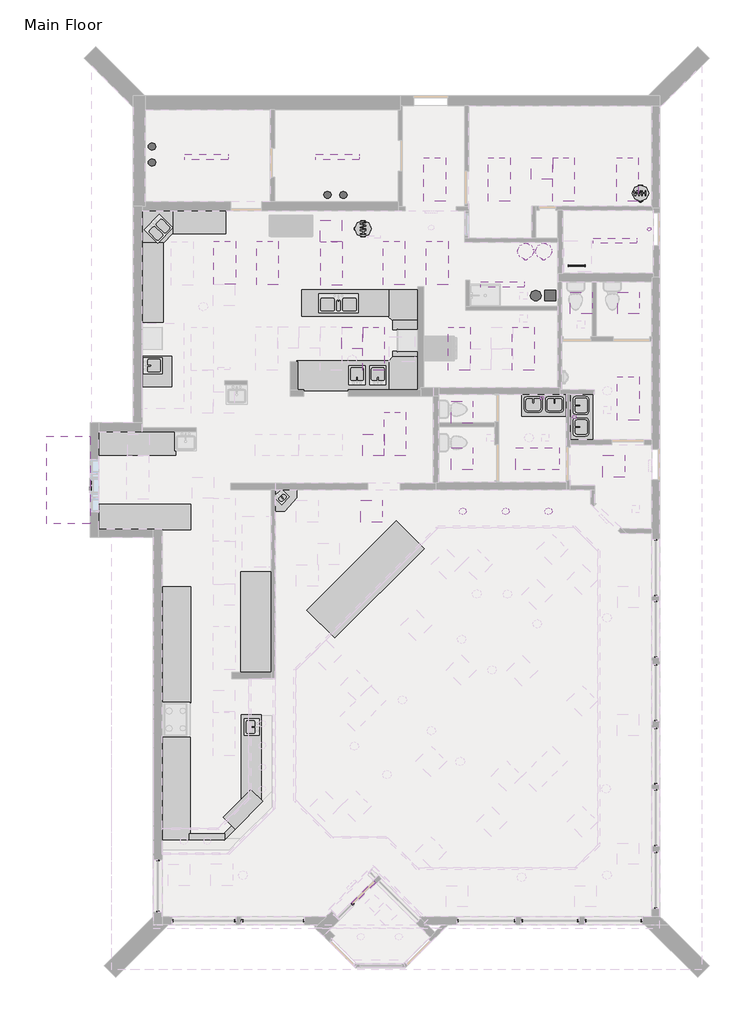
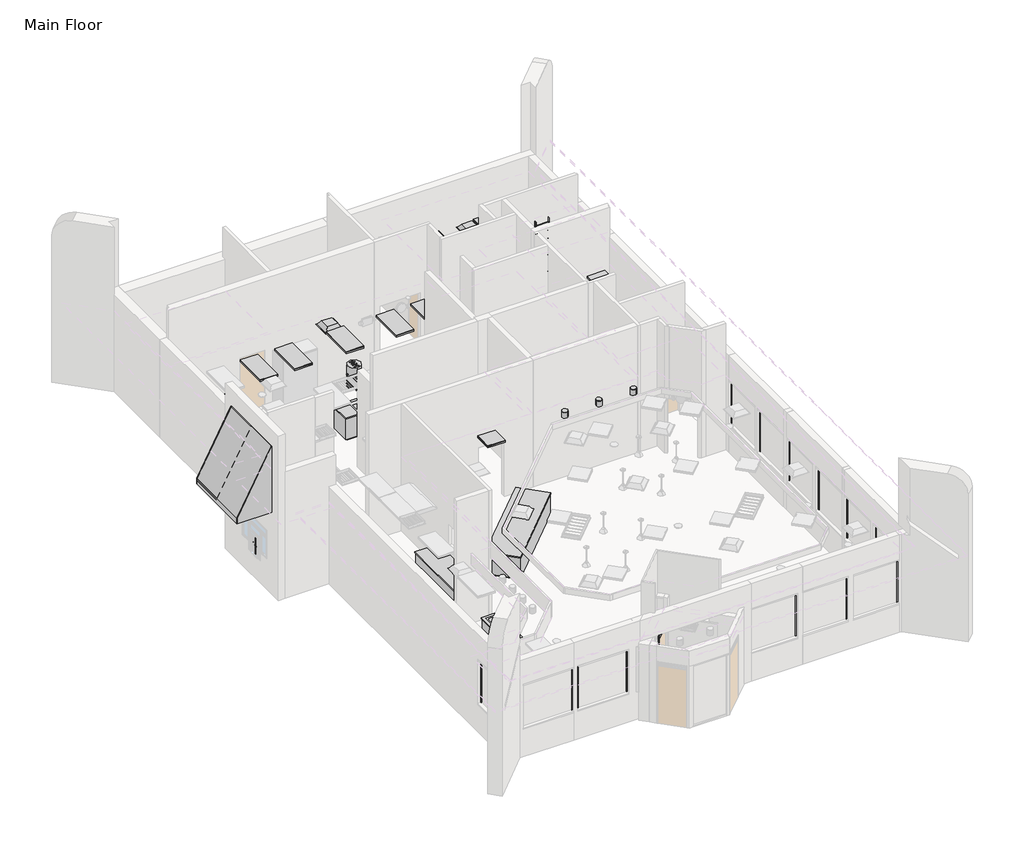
# One storey, part 6 of 6: 64 proxies, 31 light fixtures.
"""IFC4 building model written with IfcOpenShell, lengths in millimetres."""

from ifc_helpers import new_model, si_unit, frame, origin, place, context, project, spatial, polyline, outline, extrude, transform, mapped, element, save
from components import awning_8_0_x_2_a0d9e4c4, ceiling_diffuser_default_1_edc1f895, countertop_corner_shape_base_default_1_e423a1db, countertop_corner_shape_base_default_1_b8208f22, countertop_corner_shape_base_default_1_22158ea7, countertop_corner_shape_base_default_1_70b113c3, countertop_rectangle_shape_base_default_1_2ff23ce8, countertop_rectangle_shape_base_default_1_22753dd3, countertop_rectangle_shape_base_default_1_9c429990, countertop_rectangle_shape_base_default_1_edbfd68f, countertop_rectangle_shape_base_default_1_e5a6cc63, countertop_rectangle_shape_base_default_1_022ac87b, countertop_rectangle_shape_base_default_1_ae05822e, countertop_rectangle_shape_base_default_1_de570754, countertop_rectangle_shape_base_default_1_19555c43, countertop_rectangle_shape_base_default_1_59e20eb9, countertop_rectangle_shape_base_default_1_3d43212e, countertop_rectangle_shape_base_default_1_0af7198e, countertop_rectangle_shape_base_default_1_0b17d920, countertop_rectangle_shape_base_default_1_33887ab2, countertop_rectangle_shape_base_default_1_5083fd9c, countertop_rectangle_shape_base_default_1_3cfd87b4, countertop_rectangle_shape_base_default_1_46905aff, countertop_rectangle_shape_base_default_1_93e57330, countertop_rectangle_shape_base_default_1_961ba583, default_1_1a27af5c, heat_recovery_ventilator_default_1_1910ae9e, heat_recovery_ventilator_default_1_52baffe3, hot_water_heater_default_1_dcdfe45b, ladder_default_1_465773f7, muntin_pattern_2x2_muntin_pattern_2x2_a2b2235a, ceiling_mounted_fluorescent_light_default_1_2233ce3a, recessed_fluorescent_light_default_1_c438942c, recessed_fluorescent_light_default_1_8456e3b0, light_fixture_643521e1, light_fixture_e469d1bf

model = new_model("IFC4")

# Units and contexts
model_context = context("Model", 3, world=origin())
ifc_project = project(units=[si_unit("LENGTHUNIT", "METRE", prefix="MILLI")], contexts=[model_context])

# Site, building, storey
site = spatial("IfcSite", under=ifc_project)
building = spatial("IfcBuilding", under=site)
storey = spatial("IfcBuildingStorey", under=building, Name="Main Floor", Elevation=0.0)

# Proxies
placement = place(None, origin())
element("IfcBuildingElementProxy", 1, Name="Planitar-Mullion", ObjectType="Planitar-Mullion", at=placement, inside=storey, context=model_context, shape_type="SweptSolid", body=[
    extrude(outline(polyline([(58.1913166, -10826.6129637), (103.0925972, -10871.5142443), (58.1913166, -10916.4155249), (13.290036, -10871.5142443), (58.1913166, -10826.6129637)])), frame((0.0, 0.0, 69.85), z_axis=(0.0, 0.0, 1.0), x_axis=(1.0, 0.0, 0.0)), (0.0, 0.0, 1.0), 2419.35),
])
element("IfcBuildingElementProxy", 2, Name="Planitar-Mullion", ObjectType="Planitar-Mullion", at=placement, inside=storey, context=model_context, shape_type="SweptSolid", body=[
    extrude(outline(polyline([(80.6419569, -10893.9648846), (35.7406763, -10849.063604), (655.3783487, -10229.4259317), (700.2796293, -10274.3272123), (80.6419569, -10893.9648846)])), frame((0.0, 0.0, 2203.45), z_axis=(0.0, 0.0, 1.0), x_axis=(1.0, 0.0, 0.0)), (0.0, 0.0, 1.0), 63.5),
])
element("IfcBuildingElementProxy", 3, Name="Planitar-Mullion", ObjectType="Planitar-Mullion", at=placement, inside=storey, context=model_context, shape_type="SweptSolid", body=[
    extrude(outline(polyline([(-5433.3666136, -9604.5500796), (-5369.8666136, -9604.5500796), (-5369.8666136, -9668.0500796), (-5433.3666136, -9668.0500796), (-5433.3666136, -9604.5500796)])), frame((0.0, 0.0, 1066.8), z_axis=(0.0, 0.0, 1.0), x_axis=(1.0, 0.0, 0.0)), (0.0, 0.0, 1.0), 1574.8),
])
element("IfcBuildingElementProxy", 4, Name="Planitar-Mullion", ObjectType="Planitar-Mullion", at=placement, inside=storey, context=model_context, shape_type="SweptSolid", body=[
    extrude(outline(polyline([(-5433.3666136, -11077.7500796), (-5369.8666136, -11077.7500796), (-5369.8666136, -11141.2500796), (-5433.3666136, -11141.2500796), (-5433.3666136, -11077.7500796)])), frame((0.0, 0.0, 1066.8), z_axis=(0.0, 0.0, 1.0), x_axis=(1.0, 0.0, 0.0)), (0.0, 0.0, 1.0), 1574.8),
])
element("IfcBuildingElementProxy", 5, Name="Planitar-Mullion", ObjectType="Planitar-Mullion", at=placement, inside=storey, context=model_context, shape_type="SweptSolid", body=[
    extrude(outline(polyline([(-5033.3166136, -11375.6812018), (-5033.3166136, -11312.1812018), (-4969.8166136, -11312.1812018), (-4969.8166136, -11375.6812018), (-5033.3166136, -11375.6812018)])), frame((0.0, 0.0, 1066.8), z_axis=(0.0, 0.0, 1.0), x_axis=(1.0, 0.0, 0.0)), (0.0, 0.0, 1.0), 1574.8),
])
element("IfcBuildingElementProxy", 6, Name="Planitar-Mullion", ObjectType="Planitar-Mullion", at=placement, inside=storey, context=model_context, shape_type="SweptSolid", body=[
    extrude(outline(polyline([(-3255.3166136, -11375.6812018), (-3255.3166136, -11312.1812018), (-3191.8166136, -11312.1812018), (-3191.8166136, -11375.6812018), (-3255.3166136, -11375.6812018)])), frame((0.0, 0.0, 1066.8), z_axis=(0.0, 0.0, 1.0), x_axis=(1.0, 0.0, 0.0)), (0.0, 0.0, 1.0), 1574.8),
])
element("IfcBuildingElementProxy", 7, Name="Planitar-Mullion", ObjectType="Planitar-Mullion", at=placement, inside=storey, context=model_context, shape_type="SweptSolid", body=[
    extrude(outline(polyline([(-3077.5166136, -11375.6812018), (-3077.5166136, -11312.1812018), (-3014.0166136, -11312.1812018), (-3014.0166136, -11375.6812018), (-3077.5166136, -11375.6812018)])), frame((0.0, 0.0, 1066.8), z_axis=(0.0, 0.0, 1.0), x_axis=(1.0, 0.0, 0.0)), (0.0, 0.0, 1.0), 1574.8),
])
element("IfcBuildingElementProxy", 8, Name="Planitar-Mullion", ObjectType="Planitar-Mullion", at=placement, inside=storey, context=model_context, shape_type="SweptSolid", body=[
    extrude(outline(polyline([(-1329.4088727, -11375.6812018), (-1329.4088727, -11312.1812018), (-1265.9088727, -11312.1812018), (-1265.9088727, -11375.6812018), (-1329.4088727, -11375.6812018)])), frame((0.0, 0.0, 1066.8), z_axis=(0.0, 0.0, 1.0), x_axis=(1.0, 0.0, 0.0)), (0.0, 0.0, 1.0), 1574.8),
])
element("IfcBuildingElementProxy", 9, Name="Planitar-Mullion", ObjectType="Planitar-Mullion", at=placement, inside=storey, context=model_context, shape_type="SweptSolid", body=[
    extrude(outline(polyline([(2959.2063385, -11375.6812018), (2959.2063385, -11312.1812018), (3022.7063385, -11312.1812018), (3022.7063385, -11375.6812018), (2959.2063385, -11375.6812018)])), frame((0.0, 0.0, 1066.8), z_axis=(0.0, 0.0, 1.0), x_axis=(1.0, 0.0, 0.0)), (0.0, 0.0, 1.0), 1574.8),
])
element("IfcBuildingElementProxy", 10, Name="Planitar-Mullion", ObjectType="Planitar-Mullion", at=placement, inside=storey, context=model_context, shape_type="SweptSolid", body=[
    extrude(outline(polyline([(4584.8063385, -11375.6812018), (4584.8063385, -11312.1812018), (4648.3063385, -11312.1812018), (4648.3063385, -11375.6812018), (4584.8063385, -11375.6812018)])), frame((0.0, 0.0, 1066.8), z_axis=(0.0, 0.0, 1.0), x_axis=(1.0, 0.0, 0.0)), (0.0, 0.0, 1.0), 1574.8),
])
element("IfcBuildingElementProxy", 11, Name="Planitar-Mullion", ObjectType="Planitar-Mullion", at=placement, inside=storey, context=model_context, shape_type="SweptSolid", body=[
    extrude(outline(polyline([(4762.6063385, -11375.6812018), (4762.6063385, -11312.1812018), (4826.1063385, -11312.1812018), (4826.1063385, -11375.6812018), (4762.6063385, -11375.6812018)])), frame((0.0, 0.0, 1066.8), z_axis=(0.0, 0.0, 1.0), x_axis=(1.0, 0.0, 0.0)), (0.0, 0.0, 1.0), 1574.8),
])
element("IfcBuildingElementProxy", 12, Name="Planitar-Mullion", ObjectType="Planitar-Mullion", at=placement, inside=storey, context=model_context, shape_type="SweptSolid", body=[
    extrude(outline(polyline([(6362.8063385, -11375.6812018), (6362.8063385, -11312.1812018), (6426.3063385, -11312.1812018), (6426.3063385, -11375.6812018), (6362.8063385, -11375.6812018)])), frame((0.0, 0.0, 1066.8), z_axis=(0.0, 0.0, 1.0), x_axis=(1.0, 0.0, 0.0)), (0.0, 0.0, 1.0), 1574.8),
])
element("IfcBuildingElementProxy", 13, Name="Planitar-Mullion", ObjectType="Planitar-Mullion", at=placement, inside=storey, context=model_context, shape_type="SweptSolid", body=[
    extrude(outline(polyline([(6540.6063385, -11375.6812018), (6540.6063385, -11312.1812018), (6604.1063385, -11312.1812018), (6604.1063385, -11375.6812018), (6540.6063385, -11375.6812018)])), frame((0.0, 0.0, 1066.8), z_axis=(0.0, 0.0, 1.0), x_axis=(1.0, 0.0, 0.0)), (0.0, 0.0, 1.0), 1574.8),
])
element("IfcBuildingElementProxy", 14, Name="Planitar-Mullion", ObjectType="Planitar-Mullion", at=placement, inside=storey, context=model_context, shape_type="SweptSolid", body=[
    extrude(outline(polyline([(8142.9333864, -11375.6812018), (8142.9333864, -11312.1812018), (8206.4333864, -11312.1812018), (8206.4333864, -11375.6812018), (8142.9333864, -11375.6812018)])), frame((0.0, 0.0, 1066.8), z_axis=(0.0, 0.0, 1.0), x_axis=(1.0, 0.0, 0.0)), (0.0, 0.0, 1.0), 1574.8),
])
element("IfcBuildingElementProxy", 15, Name="Planitar-Mullion", ObjectType="Planitar-Mullion", at=placement, inside=storey, context=model_context, shape_type="SweptSolid", body=[
    extrude(outline(polyline([(8593.7833864, -2276.6500796), (8530.2833864, -2276.6500796), (8530.2833864, -2213.1500796), (8593.7833864, -2213.1500796), (8593.7833864, -2276.6500796)])), frame((0.0, 0.0, 1066.8), z_axis=(0.0, 0.0, 1.0), x_axis=(1.0, 0.0, 0.0)), (0.0, 0.0, 1.0), 1574.8),
])
element("IfcBuildingElementProxy", 16, Name="Planitar-Mullion", ObjectType="Planitar-Mullion", at=placement, inside=storey, context=model_context, shape_type="SweptSolid", body=[
    extrude(outline(polyline([(8593.7833864, -676.4500796), (8530.2833864, -676.4500796), (8530.2833864, -612.9500796), (8593.7833864, -612.9500796), (8593.7833864, -676.4500796)])), frame((0.0, 0.0, 1066.8), z_axis=(0.0, 0.0, 1.0), x_axis=(1.0, 0.0, 0.0)), (0.0, 0.0, 1.0), 1574.8),
])
element("IfcBuildingElementProxy", 17, Name="Planitar-Mullion", ObjectType="Planitar-Mullion", at=placement, inside=storey, context=model_context, shape_type="SweptSolid", body=[
    extrude(outline(polyline([(8593.7833864, -2403.6500796), (8530.2833864, -2403.6500796), (8530.2833864, -2340.1500796), (8593.7833864, -2340.1500796), (8593.7833864, -2403.6500796)])), frame((0.0, 0.0, 1066.8), z_axis=(0.0, 0.0, 1.0), x_axis=(1.0, 0.0, 0.0)), (0.0, 0.0, 1.0), 1574.8),
])
element("IfcBuildingElementProxy", 18, Name="Planitar-Mullion", ObjectType="Planitar-Mullion", at=placement, inside=storey, context=model_context, shape_type="SweptSolid", body=[
    extrude(outline(polyline([(8593.7833864, -4003.8500796), (8530.2833864, -4003.8500796), (8530.2833864, -3940.3500796), (8593.7833864, -3940.3500796), (8593.7833864, -4003.8500796)])), frame((0.0, 0.0, 1066.8), z_axis=(0.0, 0.0, 1.0), x_axis=(1.0, 0.0, 0.0)), (0.0, 0.0, 1.0), 1574.8),
])
element("IfcBuildingElementProxy", 19, Name="Planitar-Mullion", ObjectType="Planitar-Mullion", at=placement, inside=storey, context=model_context, shape_type="SweptSolid", body=[
    extrude(outline(polyline([(8593.7833864, -4181.6500796), (8530.2833864, -4181.6500796), (8530.2833864, -4118.1500796), (8593.7833864, -4118.1500796), (8593.7833864, -4181.6500796)])), frame((0.0, 0.0, 1066.8), z_axis=(0.0, 0.0, 1.0), x_axis=(1.0, 0.0, 0.0)), (0.0, 0.0, 1.0), 1574.8),
])
element("IfcBuildingElementProxy", 20, Name="Planitar-Mullion", ObjectType="Planitar-Mullion", at=placement, inside=storey, context=model_context, shape_type="SweptSolid", body=[
    extrude(outline(polyline([(8593.7833864, -5781.8500796), (8530.2833864, -5781.8500796), (8530.2833864, -5718.3500796), (8593.7833864, -5718.3500796), (8593.7833864, -5781.8500796)])), frame((0.0, 0.0, 1066.8), z_axis=(0.0, 0.0, 1.0), x_axis=(1.0, 0.0, 0.0)), (0.0, 0.0, 1.0), 1574.8),
])
element("IfcBuildingElementProxy", 21, Name="Planitar-Mullion", ObjectType="Planitar-Mullion", at=placement, inside=storey, context=model_context, shape_type="SweptSolid", body=[
    extrude(outline(polyline([(8593.7833864, -5959.6500796), (8530.2833864, -5959.6500796), (8530.2833864, -5896.1500796), (8593.7833864, -5896.1500796), (8593.7833864, -5959.6500796)])), frame((0.0, 0.0, 1066.8), z_axis=(0.0, 0.0, 1.0), x_axis=(1.0, 0.0, 0.0)), (0.0, 0.0, 1.0), 1574.8),
])
element("IfcBuildingElementProxy", 22, Name="Planitar-Mullion", ObjectType="Planitar-Mullion", at=placement, inside=storey, context=model_context, shape_type="SweptSolid", body=[
    extrude(outline(polyline([(8593.7833864, -7559.8500796), (8530.2833864, -7559.8500796), (8530.2833864, -7496.3500796), (8593.7833864, -7496.3500796), (8593.7833864, -7559.8500796)])), frame((0.0, 0.0, 1066.8), z_axis=(0.0, 0.0, 1.0), x_axis=(1.0, 0.0, 0.0)), (0.0, 0.0, 1.0), 1574.8),
])
element("IfcBuildingElementProxy", 23, Name="Planitar-Mullion", ObjectType="Planitar-Mullion", at=placement, inside=storey, context=model_context, shape_type="SweptSolid", body=[
    extrude(outline(polyline([(8593.7833864, -7686.8500796), (8530.2833864, -7686.8500796), (8530.2833864, -7623.3500796), (8593.7833864, -7623.3500796), (8593.7833864, -7686.8500796)])), frame((0.0, 0.0, 1066.8), z_axis=(0.0, 0.0, 1.0), x_axis=(1.0, 0.0, 0.0)), (0.0, 0.0, 1.0), 1574.8),
])
element("IfcBuildingElementProxy", 24, Name="Planitar-Mullion", ObjectType="Planitar-Mullion", at=placement, inside=storey, context=model_context, shape_type="SweptSolid", body=[
    extrude(outline(polyline([(8593.7833864, -9287.0500796), (8530.2833864, -9287.0500796), (8530.2833864, -9223.5500796), (8593.7833864, -9223.5500796), (8593.7833864, -9287.0500796)])), frame((0.0, 0.0, 1066.8), z_axis=(0.0, 0.0, 1.0), x_axis=(1.0, 0.0, 0.0)), (0.0, 0.0, 1.0), 1574.8),
])
element("IfcBuildingElementProxy", 25, Name="Planitar-Mullion", ObjectType="Planitar-Mullion", at=placement, inside=storey, context=model_context, shape_type="SweptSolid", body=[
    extrude(outline(polyline([(8593.7833864, -9439.4500796), (8530.2833864, -9439.4500796), (8530.2833864, -9375.9500796), (8593.7833864, -9375.9500796), (8593.7833864, -9439.4500796)])), frame((0.0, 0.0, 1066.8), z_axis=(0.0, 0.0, 1.0), x_axis=(1.0, 0.0, 0.0)), (0.0, 0.0, 1.0), 1574.8),
])
element("IfcBuildingElementProxy", 26, Name="Planitar-Mullion", ObjectType="Planitar-Mullion", at=placement, inside=storey, context=model_context, shape_type="SweptSolid", body=[
    extrude(outline(polyline([(8593.7833864, -11039.6500796), (8530.2833864, -11039.6500796), (8530.2833864, -10976.1500796), (8593.7833864, -10976.1500796), (8593.7833864, -11039.6500796)])), frame((0.0, 0.0, 1066.8), z_axis=(0.0, 0.0, 1.0), x_axis=(1.0, 0.0, 0.0)), (0.0, 0.0, 1.0), 1574.8),
])
awning_8_0_x_2_shape = awning_8_0_x_2_a0d9e4c4(model_context)
element("IfcBuildingElementProxy", 27, Name="Awning : 8'-0 x 2", ObjectType="Awning : 8'-0 x 2", at=placement, inside=storey, context=model_context, shape_type="MappedRepresentation", body=[
    mapped(awning_8_0_x_2_shape, transform((-7179.6166136, 1012.6499204, 1219.2), x_axis=(0.0, 1.0, 0.0), y_axis=(-1.0, 0.0, 0.0), z_axis=(0.0, 0.0, 1.0))),
])
ceiling_diffuser_default_1_shape = ceiling_diffuser_default_1_edc1f895(model_context)
element("IfcBuildingElementProxy", 28, Name="Ceiling Diffuser : Default 1", ObjectType="Ceiling Diffuser : Default 1", at=placement, inside=storey, context=model_context, shape_type="MappedRepresentation", body=[
    mapped(ceiling_diffuser_default_1_shape, transform((46.6833864, 4997.2749204, 2590.8), x_axis=(1.0, 0.0, 0.0), y_axis=(0.0, 1.0, 0.0), z_axis=(0.0, 0.0, 1.0))),
])
element("IfcBuildingElementProxy", 29, Name="Ceiling Diffuser : Default 1", ObjectType="Ceiling Diffuser : Default 1", at=placement, inside=storey, context=model_context, shape_type="MappedRepresentation", body=[
    mapped(ceiling_diffuser_default_1_shape, transform((642.0278247, 1993.7249204, 2590.8), x_axis=(1.0, 0.0, 0.0), y_axis=(0.0, 1.0, 0.0), z_axis=(0.0, 0.0, 1.0))),
])
element("IfcBuildingElementProxy", 30, Name="Ceiling Diffuser : Default 1", ObjectType="Ceiling Diffuser : Default 1", at=placement, inside=storey, context=model_context, shape_type="MappedRepresentation", body=[
    mapped(ceiling_diffuser_default_1_shape, transform((5368.4582966, 9745.9587148, 3048.0), x_axis=(1.0, 0.0, 0.0), y_axis=(0.0, 1.0, 0.0), z_axis=(0.0, 0.0, 1.0))),
])
element("IfcBuildingElementProxy", 31, Name="Ceiling Diffuser : Default 1", ObjectType="Ceiling Diffuser : Default 1", at=placement, inside=storey, context=model_context, shape_type="MappedRepresentation", body=[
    mapped(ceiling_diffuser_default_1_shape, transform((-549.619329, 7998.2462841, 2590.8), x_axis=(1.0, 0.0, 0.0), y_axis=(0.0, 1.0, 0.0), z_axis=(0.0, 0.0, 1.0))),
])
countertop_corner_shape_base_default_1_shape = countertop_corner_shape_base_default_1_e423a1db(model_context)
element("IfcBuildingElementProxy", 32, Name="Countertop- Corner, Shape base : Default 1", ObjectType="Countertop- Corner, Shape base : Default 1", at=placement, inside=storey, context=model_context, shape_type="MappedRepresentation", body=[
    mapped(countertop_corner_shape_base_default_1_shape, transform((1881.8333864, 2948.8999204, 0.0), x_axis=(0.0, 1.0, 0.0), y_axis=(-1.0, 0.0, 0.0), z_axis=(0.0, 0.0, 1.0))),
])
countertop_corner_shape_base_default_1_2_shape = countertop_corner_shape_base_default_1_b8208f22(model_context)
element("IfcBuildingElementProxy", 33, Name="Countertop- Corner, Shape base : Default 1", ObjectType="Countertop- Corner, Shape base : Default 1", at=placement, inside=storey, context=model_context, shape_type="MappedRepresentation", body=[
    mapped(countertop_corner_shape_base_default_1_2_shape, transform((2574.4833864, 6327.5999204, 0.0), x_axis=(-1.0, 0.0, 0.0), y_axis=(0.0, -1.0, 0.0), z_axis=(0.0, 0.0, 1.0))),
])
countertop_corner_shape_base_default_1_3_shape = countertop_corner_shape_base_default_1_22158ea7(model_context)
element("IfcBuildingElementProxy", 34, Name="Countertop- Corner, Shape base : Default 1", ObjectType="Countertop- Corner, Shape base : Default 1", at=placement, inside=storey, context=model_context, shape_type="MappedRepresentation", body=[
    mapped(countertop_corner_shape_base_default_1_3_shape, transform((-5846.1166136, 9179.2499204, 0.0), x_axis=(0.0, -1.0, 0.0), y_axis=(1.0, 0.0, 0.0), z_axis=(0.0, 0.0, 1.0))),
])
countertop_corner_shape_base_default_1_4_shape = countertop_corner_shape_base_default_1_70b113c3(model_context)
element("IfcBuildingElementProxy", 35, Name="Countertop- Corner, Shape base : Default 1", ObjectType="Countertop- Corner, Shape base : Default 1", at=placement, inside=storey, context=model_context, shape_type="MappedRepresentation", body=[
    mapped(countertop_corner_shape_base_default_1_4_shape, transform((-2112.3166136, 1667.1999204, 0.0), x_axis=(0.0, -1.0, 0.0), y_axis=(1.0, 0.0, 0.0), z_axis=(0.0, 0.0, 1.0))),
])
countertop_rectangle_shape_base_default_1_shape = countertop_rectangle_shape_base_default_1_2ff23ce8(model_context)
element("IfcBuildingElementProxy", 36, Name="Countertop- Rectangle shape base : Default 1", ObjectType="Countertop- Rectangle shape base : Default 1", at=placement, inside=storey, context=model_context, shape_type="MappedRepresentation", body=[
    mapped(countertop_rectangle_shape_base_default_1_shape, transform((-5271.4416136, -2844.9750796, 0.0), x_axis=(0.0, -1.0, 0.0), y_axis=(1.0, 0.0, 0.0), z_axis=(0.0, 0.0, 1.0))),
])
countertop_rectangle_shape_base_default_1_2_shape = countertop_rectangle_shape_base_default_1_22753dd3(model_context)
element("IfcBuildingElementProxy", 37, Name="Countertop- Rectangle shape base : Default 1", ObjectType="Countertop- Rectangle shape base : Default 1", at=placement, inside=storey, context=model_context, shape_type="MappedRepresentation", body=[
    mapped(countertop_rectangle_shape_base_default_1_2_shape, transform((-3023.5416136, -2216.3250796, 0.0), x_axis=(0.0, -1.0, 0.0), y_axis=(1.0, 0.0, 0.0), z_axis=(0.0, 0.0, 1.0))),
])
countertop_rectangle_shape_base_default_1_3_shape = countertop_rectangle_shape_base_default_1_9c429990(model_context)
element("IfcBuildingElementProxy", 38, Name="Countertop- Rectangle shape base : Default 1", ObjectType="Countertop- Rectangle shape base : Default 1", at=placement, inside=storey, context=model_context, shape_type="MappedRepresentation", body=[
    mapped(countertop_rectangle_shape_base_default_1_3_shape, transform((-6544.6166136, -403.4000796, 0.0), x_axis=(1.0, 0.0, 0.0), y_axis=(0.0, 1.0, 0.0), z_axis=(0.0, 0.0, 1.0))),
])
countertop_rectangle_shape_base_default_1_4_shape = countertop_rectangle_shape_base_default_1_edbfd68f(model_context)
element("IfcBuildingElementProxy", 39, Name="Countertop- Rectangle shape base : Default 1", ObjectType="Countertop- Rectangle shape base : Default 1", at=placement, inside=storey, context=model_context, shape_type="MappedRepresentation", body=[
    mapped(countertop_rectangle_shape_base_default_1_4_shape, transform((-6204.8916136, 3679.6499204, 0.0), x_axis=(1.0, 0.0, 0.0), y_axis=(0.0, 1.0, 0.0), z_axis=(0.0, 0.0, 1.0))),
])
countertop_rectangle_shape_base_default_1_5_shape = countertop_rectangle_shape_base_default_1_e5a6cc63(model_context)
element("IfcBuildingElementProxy", 40, Name="Countertop- Rectangle shape base : Default 1", ObjectType="Countertop- Rectangle shape base : Default 1", at=placement, inside=storey, context=model_context, shape_type="MappedRepresentation", body=[
    mapped(countertop_rectangle_shape_base_default_1_5_shape, transform((-5938.1916136, 7321.3749204, 0.0), x_axis=(0.0, -1.0, 0.0), y_axis=(1.0, 0.0, 0.0), z_axis=(0.0, 0.0, 1.0))),
])
countertop_rectangle_shape_base_default_1_6_shape = countertop_rectangle_shape_base_default_1_022ac87b(model_context)
element("IfcBuildingElementProxy", 41, Name="Countertop- Rectangle shape base : Default 1", ObjectType="Countertop- Rectangle shape base : Default 1", at=placement, inside=storey, context=model_context, shape_type="MappedRepresentation", body=[
    mapped(countertop_rectangle_shape_base_default_1_6_shape, transform((-3490.2666136, 8635.8249204, 0.0), x_axis=(-1.0, 0.0, 0.0), y_axis=(0.0, -1.0, 0.0), z_axis=(0.0, 0.0, 1.0))),
])
countertop_rectangle_shape_base_default_1_7_shape = countertop_rectangle_shape_base_default_1_ae05822e(model_context)
element("IfcBuildingElementProxy", 42, Name="Countertop- Rectangle shape base : Default 1", ObjectType="Countertop- Rectangle shape base : Default 1", at=placement, inside=storey, context=model_context, shape_type="MappedRepresentation", body=[
    mapped(countertop_rectangle_shape_base_default_1_7_shape, transform((611.8333864, 6356.1749204, 0.0), x_axis=(-1.0, 0.0, 0.0), y_axis=(0.0, -1.0, 0.0), z_axis=(0.0, 0.0, 1.0))),
])
countertop_rectangle_shape_base_default_1_8_shape = countertop_rectangle_shape_base_default_1_de570754(model_context)
element("IfcBuildingElementProxy", 43, Name="Countertop- Rectangle shape base : Default 1", ObjectType="Countertop- Rectangle shape base : Default 1", at=placement, inside=storey, context=model_context, shape_type="MappedRepresentation", body=[
    mapped(countertop_rectangle_shape_base_default_1_8_shape, transform((780.1083864, 4975.0499204, 0.0), x_axis=(1.0, 0.0, 0.0), y_axis=(0.0, 1.0, 0.0), z_axis=(0.0, 0.0, 1.0))),
])
countertop_rectangle_shape_base_default_1_9_shape = countertop_rectangle_shape_base_default_1_19555c43(model_context)
element("IfcBuildingElementProxy", 44, Name="Countertop- Rectangle shape base : Default 1", ObjectType="Countertop- Rectangle shape base : Default 1", at=placement, inside=storey, context=model_context, shape_type="MappedRepresentation", body=[
    mapped(countertop_rectangle_shape_base_default_1_9_shape, transform((780.1083864, 4162.2499204, 0.0), x_axis=(1.0, 0.0, 0.0), y_axis=(0.0, 1.0, 0.0), z_axis=(0.0, 0.0, 1.0))),
])
countertop_rectangle_shape_base_default_1_10_shape = countertop_rectangle_shape_base_default_1_59e20eb9(model_context)
element("IfcBuildingElementProxy", 45, Name="Countertop- Rectangle shape base : Default 1", ObjectType="Countertop- Rectangle shape base : Default 1", at=placement, inside=storey, context=model_context, shape_type="MappedRepresentation", body=[
    mapped(countertop_rectangle_shape_base_default_1_10_shape, transform((-978.8416136, 3555.8249204, 0.0), x_axis=(1.0, 0.0, 0.0), y_axis=(0.0, 1.0, 0.0), z_axis=(0.0, 0.0, 1.0))),
])
countertop_rectangle_shape_base_default_1_11_shape = countertop_rectangle_shape_base_default_1_3d43212e(model_context)
element("IfcBuildingElementProxy", 46, Name="Countertop- Rectangle shape base : Default 1", ObjectType="Countertop- Rectangle shape base : Default 1", at=placement, inside=storey, context=model_context, shape_type="MappedRepresentation", body=[
    mapped(countertop_rectangle_shape_base_default_1_11_shape, transform((4672.6583864, 2739.8499204, 0.0), x_axis=(1.0, 0.0, 0.0), y_axis=(0.0, 1.0, 0.0), z_axis=(0.0, 0.0, 1.0))),
])
countertop_rectangle_shape_base_default_1_12_shape = countertop_rectangle_shape_base_default_1_0af7198e(model_context)
element("IfcBuildingElementProxy", 47, Name="Countertop- Rectangle shape base : Default 1", ObjectType="Countertop- Rectangle shape base : Default 1", at=placement, inside=storey, context=model_context, shape_type="MappedRepresentation", body=[
    mapped(countertop_rectangle_shape_base_default_1_12_shape, transform((6853.8833864, 2019.1249204, 0.0), x_axis=(0.0, 1.0, 0.0), y_axis=(-1.0, 0.0, 0.0), z_axis=(0.0, 0.0, 1.0))),
])
countertop_rectangle_shape_base_default_1_13_shape = countertop_rectangle_shape_base_default_1_0b17d920(model_context)
element("IfcBuildingElementProxy", 48, Name="Countertop- Rectangle shape base : Default 1", ObjectType="Countertop- Rectangle shape base : Default 1", at=placement, inside=storey, context=model_context, shape_type="MappedRepresentation", body=[
    mapped(countertop_rectangle_shape_base_default_1_13_shape, transform((-6754.1666136, 1663.5249204, 0.0), x_axis=(1.0, 0.0, 0.0), y_axis=(0.0, 1.0, 0.0), z_axis=(0.0, 0.0, 1.0))),
])
countertop_rectangle_shape_base_default_1_14_shape = countertop_rectangle_shape_base_default_1_33887ab2(model_context)
element("IfcBuildingElementProxy", 49, Name="Countertop- Rectangle shape base : Default 1", ObjectType="Countertop- Rectangle shape base : Default 1", at=placement, inside=storey, context=model_context, shape_type="MappedRepresentation", body=[
    mapped(countertop_rectangle_shape_base_default_1_14_shape, transform((-5274.6166136, -6874.0500796, 0.0), x_axis=(0.0, -1.0, 0.0), y_axis=(1.0, 0.0, 0.0), z_axis=(0.0, 0.0, 1.0))),
])
countertop_rectangle_shape_base_default_1_15_shape = countertop_rectangle_shape_base_default_1_5083fd9c(model_context)
element("IfcBuildingElementProxy", 50, Name="Countertop- Rectangle shape base : Default 1", ObjectType="Countertop- Rectangle shape base : Default 1", at=placement, inside=storey, context=model_context, shape_type="MappedRepresentation", body=[
    mapped(countertop_rectangle_shape_base_default_1_15_shape, transform((-4788.8416136, -9366.4250796, 0.0), x_axis=(1.0, 0.0, 0.0), y_axis=(0.0, 1.0, 0.0), z_axis=(0.0, 0.0, 1.0))),
])
countertop_rectangle_shape_base_default_1_16_shape = countertop_rectangle_shape_base_default_1_3cfd87b4(model_context)
element("IfcBuildingElementProxy", 51, Name="Countertop- Rectangle shape base : Default 1", ObjectType="Countertop- Rectangle shape base : Default 1", at=placement, inside=storey, context=model_context, shape_type="MappedRepresentation", body=[
    mapped(countertop_rectangle_shape_base_default_1_16_shape, transform((-3166.4166136, -6026.3250796, 0.0), x_axis=(0.0, -1.0, 0.0), y_axis=(1.0, 0.0, 0.0), z_axis=(0.0, 0.0, 1.0))),
])
countertop_rectangle_shape_base_default_1_17_shape = countertop_rectangle_shape_base_default_1_46905aff(model_context)
element("IfcBuildingElementProxy", 52, Name="Countertop- Rectangle shape base : Default 1", ObjectType="Countertop- Rectangle shape base : Default 1", at=placement, inside=storey, context=model_context, shape_type="MappedRepresentation", body=[
    mapped(countertop_rectangle_shape_base_default_1_17_shape, transform((-3281.6520003, -9030.2496867, 0.0), x_axis=(0.7071067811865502, 0.7071067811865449, 0.0), y_axis=(-0.7071067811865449, 0.7071067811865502, 0.0), z_axis=(0.0, 0.0, 1.0))),
])
countertop_rectangle_shape_base_default_1_18_shape = countertop_rectangle_shape_base_default_1_93e57330(model_context)
element("IfcBuildingElementProxy", 53, Name="Countertop- Rectangle shape base : Default 1", ObjectType="Countertop- Rectangle shape base : Default 1", at=placement, inside=storey, context=model_context, shape_type="MappedRepresentation", body=[
    mapped(countertop_rectangle_shape_base_default_1_18_shape, transform((-3689.1419607, -9678.1984777, 0.0), x_axis=(0.7071067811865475, 0.7071067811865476, 0.0), y_axis=(-0.7071067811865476, 0.7071067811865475, 0.0), z_axis=(0.0, 0.0, 1.0))),
])
countertop_rectangle_shape_base_default_1_19_shape = countertop_rectangle_shape_base_default_1_961ba583(model_context)
element("IfcBuildingElementProxy", 54, Name="Countertop- Rectangle shape base : Default 1", ObjectType="Countertop- Rectangle shape base : Default 1", at=placement, inside=storey, context=model_context, shape_type="MappedRepresentation", body=[
    mapped(countertop_rectangle_shape_base_default_1_19_shape, transform((149.1218046, -2578.3685429, 0.0), x_axis=(0.7071067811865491, 0.707106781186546, 0.0), y_axis=(-0.707106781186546, 0.7071067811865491, 0.0), z_axis=(0.0, 0.0, 1.0))),
])
default_1_shape = default_1_1a27af5c(model_context)
element("IfcBuildingElementProxy", 55, Name="Water Softener : Default 1", ObjectType="Water Softener : Default 1", at=placement, inside=storey, context=model_context, shape_type="MappedRepresentation", body=[
    mapped(default_1_shape, transform((5196.5333864, 6187.8999204, 0.0), x_axis=(1.0, 0.0, 0.0), y_axis=(0.0, 1.0, 0.0), z_axis=(0.0, 0.0, 1.0))),
])
heat_recovery_ventilator_default_1_shape = heat_recovery_ventilator_default_1_1910ae9e(model_context)
element("IfcBuildingElementProxy", 56, Name="Heat Recovery Ventilator : Default 1", ObjectType="Heat Recovery Ventilator : Default 1", at=placement, inside=storey, context=model_context, shape_type="MappedRepresentation", body=[
    mapped(heat_recovery_ventilator_default_1_shape, transform((-548.2166136, 8696.1499204, 0.0), x_axis=(1.0, 0.0, 0.0), y_axis=(0.0, 1.0, 0.0), z_axis=(0.0, 0.0, 1.0))),
])
heat_recovery_ventilator_default_1_2_shape = heat_recovery_ventilator_default_1_52baffe3(model_context)
element("IfcBuildingElementProxy", 57, Name="Heat Recovery Ventilator : Default 1", ObjectType="Heat Recovery Ventilator : Default 1", at=placement, inside=storey, context=model_context, shape_type="MappedRepresentation", body=[
    mapped(heat_recovery_ventilator_default_1_2_shape, transform((-5922.3166136, 10268.9499204, 0.0), x_axis=(0.0, -1.0, 0.0), y_axis=(1.0, 0.0, 0.0), z_axis=(0.0, 0.0, 1.0))),
])
hot_water_heater_default_1_shape = hot_water_heater_default_1_dcdfe45b(model_context)
element("IfcBuildingElementProxy", 58, Name="Hot Water Heater : Default 1", ObjectType="Hot Water Heater : Default 1", at=placement, inside=storey, context=model_context, shape_type="MappedRepresentation", body=[
    mapped(hot_water_heater_default_1_shape, transform((351.4833864, 8061.1499204, 0.0), x_axis=(0.0, -1.0, 0.0), y_axis=(1.0, 0.0, 0.0), z_axis=(0.0, 0.0, 1.0))),
])
element("IfcBuildingElementProxy", 59, Name="Hot Water Heater : Default 1", ObjectType="Hot Water Heater : Default 1", at=placement, inside=storey, context=model_context, shape_type="MappedRepresentation", body=[
    mapped(hot_water_heater_default_1_shape, transform((4910.7833864, 7432.4999204, 1371.6), x_axis=(1.0, 0.0, 0.0), y_axis=(0.0, 1.0, 0.0), z_axis=(0.0, 0.0, 1.0))),
])
element("IfcBuildingElementProxy", 60, Name="Hot Water Heater : Default 1", ObjectType="Hot Water Heater : Default 1", at=placement, inside=storey, context=model_context, shape_type="MappedRepresentation", body=[
    mapped(hot_water_heater_default_1_shape, transform((5418.7833864, 7432.4999204, 1371.6), x_axis=(1.0, 0.0, 0.0), y_axis=(0.0, 1.0, 0.0), z_axis=(0.0, 0.0, 1.0))),
])
element("IfcBuildingElementProxy", 61, Name="Hot Water Heater : Default 1", ObjectType="Hot Water Heater : Default 1", at=placement, inside=storey, context=model_context, shape_type="MappedRepresentation", body=[
    mapped(hot_water_heater_default_1_shape, transform((8130.2333864, 9058.0999204, 0.0), x_axis=(1.0, 0.0, 0.0), y_axis=(0.0, 1.0, 0.0), z_axis=(0.0, 0.0, 1.0))),
])
ladder_default_1_shape = ladder_default_1_465773f7(model_context)
element("IfcBuildingElementProxy", 62, Name="Ladder : Default 1", ObjectType="Ladder : Default 1", at=placement, inside=storey, context=model_context, shape_type="MappedRepresentation", body=[
    mapped(ladder_default_1_shape, transform((6339.5333864, 7026.0999204, 3352.8), x_axis=(-1.0, 0.0, 0.0), y_axis=(0.0, -1.0, 0.0), z_axis=(0.0, 0.0, 1.0))),
])
muntin_pattern_2x2_muntin_pattern_2x2_shape = muntin_pattern_2x2_muntin_pattern_2x2_a2b2235a(model_context)
element("IfcBuildingElementProxy", 63, Name="Muntin Pattern_2x2 : Muntin Pattern_2x2", ObjectType="Muntin Pattern_2x2 : Muntin Pattern_2x2", at=placement, inside=storey, context=model_context, shape_type="MappedRepresentation", body=[
    mapped(muntin_pattern_2x2_muntin_pattern_2x2_shape, transform((-7246.2916136, 936.0523292, 895.35), x_axis=(0.0, 1.0, 0.0), y_axis=(-1.0, 0.0, 0.0), z_axis=(0.0, 0.0, 1.0))),
])
element("IfcBuildingElementProxy", 64, Name="Muntin Pattern_2x2 : Muntin Pattern_2x2", ObjectType="Muntin Pattern_2x2 : Muntin Pattern_2x2", at=placement, inside=storey, context=model_context, shape_type="MappedRepresentation", body=[
    mapped(muntin_pattern_2x2_muntin_pattern_2x2_shape, transform((-7290.7416136, 774.1273292, 895.35), x_axis=(0.0, 1.0, 0.0), y_axis=(-1.0, 0.0, 0.0), z_axis=(0.0, 0.0, 1.0))),
])

# Light fixtures
ceiling_mounted_fluorescent_light_default_1_shape = ceiling_mounted_fluorescent_light_default_1_2233ce3a(model_context)
element("IfcLightFixture", 65, ObjectType="Ceiling Mounted Fluorescent Light : Default 1", at=placement, inside=storey, context=model_context, shape_type="MappedRepresentation", body=[
    mapped(ceiling_mounted_fluorescent_light_default_1_shape, transform((4263.0833864, 6492.6999204, 152.4), x_axis=(1.0, 0.0, 0.0), y_axis=(0.0, 1.0, 0.0), z_axis=(0.0, 0.0, 1.0))),
])
element("IfcLightFixture", 66, ObjectType="Ceiling Mounted Fluorescent Light : Default 1", at=placement, inside=storey, context=model_context, shape_type="MappedRepresentation", body=[
    mapped(ceiling_mounted_fluorescent_light_default_1_shape, transform((-359.7166136, 10067.7499204, 0.0), x_axis=(1.0, 0.0, 0.0), y_axis=(0.0, 1.0, 0.0), z_axis=(0.0, 0.0, 1.0))),
])
element("IfcLightFixture", 67, ObjectType="Ceiling Mounted Fluorescent Light : Default 1", at=placement, inside=storey, context=model_context, shape_type="MappedRepresentation", body=[
    mapped(ceiling_mounted_fluorescent_light_default_1_shape, transform((-4043.2773932, 10067.7499204, 0.0), x_axis=(1.0, 0.0, 0.0), y_axis=(0.0, 1.0, 0.0), z_axis=(0.0, 0.0, 1.0))),
])
element("IfcLightFixture", 68, ObjectType="Ceiling Mounted Fluorescent Light : Default 1", at=placement, inside=storey, context=model_context, shape_type="MappedRepresentation", body=[
    mapped(ceiling_mounted_fluorescent_light_default_1_shape, transform((7419.0333864, 7724.5999204, 1168.4), x_axis=(1.0, 0.0, 0.0), y_axis=(0.0, 1.0, 0.0), z_axis=(0.0, 0.0, 1.0))),
])
recessed_fluorescent_light_default_1_shape = recessed_fluorescent_light_default_1_c438942c(model_context)
element("IfcLightFixture", 69, ObjectType="Recessed Fluorescent Light : Default 1", at=placement, inside=storey, context=model_context, shape_type="MappedRepresentation", body=[
    mapped(recessed_fluorescent_light_default_1_shape, transform((4847.2833864, 4695.6499204, 152.4), x_axis=(0.0, 1.0, 0.0), y_axis=(-1.0, 0.0, 0.0), z_axis=(0.0, 0.0, 1.0))),
])
element("IfcLightFixture", 70, ObjectType="Recessed Fluorescent Light : Default 1", at=placement, inside=storey, context=model_context, shape_type="MappedRepresentation", body=[
    mapped(recessed_fluorescent_light_default_1_shape, transform((3050.2333864, 4695.6499204, 152.4), x_axis=(0.0, 1.0, 0.0), y_axis=(-1.0, 0.0, 0.0), z_axis=(0.0, 0.0, 1.0))),
])
element("IfcLightFixture", 71, ObjectType="Recessed Fluorescent Light : Default 1", at=placement, inside=storey, context=model_context, shape_type="MappedRepresentation", body=[
    mapped(recessed_fluorescent_light_default_1_shape, transform((2434.2833864, 7095.9499204, 152.4), x_axis=(0.0, 1.0, 0.0), y_axis=(-1.0, 0.0, 0.0), z_axis=(0.0, 0.0, 1.0))),
])
element("IfcLightFixture", 72, ObjectType="Recessed Fluorescent Light : Default 1", at=placement, inside=storey, context=model_context, shape_type="MappedRepresentation", body=[
    mapped(recessed_fluorescent_light_default_1_shape, transform((1221.4333864, 7095.9499204, 152.4), x_axis=(0.0, 1.0, 0.0), y_axis=(-1.0, 0.0, 0.0), z_axis=(0.0, 0.0, 1.0))),
])
element("IfcLightFixture", 73, ObjectType="Recessed Fluorescent Light : Default 1", at=placement, inside=storey, context=model_context, shape_type="MappedRepresentation", body=[
    mapped(recessed_fluorescent_light_default_1_shape, transform((-531.1666136, 7089.5999204, 152.4), x_axis=(0.0, 1.0, 0.0), y_axis=(-1.0, 0.0, 0.0), z_axis=(0.0, 0.0, 1.0))),
])
element("IfcLightFixture", 74, ObjectType="Recessed Fluorescent Light : Default 1", at=placement, inside=storey, context=model_context, shape_type="MappedRepresentation", body=[
    mapped(recessed_fluorescent_light_default_1_shape, transform((-2328.2166136, 7095.9499204, 152.4), x_axis=(0.0, 1.0, 0.0), y_axis=(-1.0, 0.0, 0.0), z_axis=(0.0, 0.0, 1.0))),
])
element("IfcLightFixture", 75, ObjectType="Recessed Fluorescent Light : Default 1", at=placement, inside=storey, context=model_context, shape_type="MappedRepresentation", body=[
    mapped(recessed_fluorescent_light_default_1_shape, transform((-3528.3666136, 7107.8474007, 152.4), x_axis=(0.0, 1.0, 0.0), y_axis=(-1.0, 0.0, 0.0), z_axis=(0.0, 0.0, 1.0))),
])
element("IfcLightFixture", 76, ObjectType="Recessed Fluorescent Light : Default 1", at=placement, inside=storey, context=model_context, shape_type="MappedRepresentation", body=[
    mapped(recessed_fluorescent_light_default_1_shape, transform((643.5833864, 4695.6499204, 152.4), x_axis=(0.0, 1.0, 0.0), y_axis=(-1.0, 0.0, 0.0), z_axis=(0.0, 0.0, 1.0))),
])
element("IfcLightFixture", 77, ObjectType="Recessed Fluorescent Light : Default 1", at=placement, inside=storey, context=model_context, shape_type="MappedRepresentation", body=[
    mapped(recessed_fluorescent_light_default_1_shape, transform((1246.8333864, 2301.6999204, 152.4), x_axis=(0.0, 1.0, 0.0), y_axis=(-1.0, 0.0, 0.0), z_axis=(0.0, 0.0, 1.0))),
])
element("IfcLightFixture", 78, ObjectType="Recessed Fluorescent Light : Default 1", at=placement, inside=storey, context=model_context, shape_type="MappedRepresentation", body=[
    mapped(recessed_fluorescent_light_default_1_shape, transform((5247.3333864, 1609.5499204, 152.4), x_axis=(1.0, 0.0, 0.0), y_axis=(0.0, 1.0, 0.0), z_axis=(0.0, 0.0, 1.0))),
])
element("IfcLightFixture", 79, ObjectType="Recessed Fluorescent Light : Default 1", at=placement, inside=storey, context=model_context, shape_type="MappedRepresentation", body=[
    mapped(recessed_fluorescent_light_default_1_shape, transform((7790.5083864, 3298.7454526, 152.4), x_axis=(0.0, 1.0, 0.0), y_axis=(-1.0, 0.0, 0.0), z_axis=(0.0, 0.0, 1.0))),
])
element("IfcLightFixture", 80, ObjectType="Recessed Fluorescent Light : Default 1", at=placement, inside=storey, context=model_context, shape_type="MappedRepresentation", body=[
    mapped(recessed_fluorescent_light_default_1_shape, transform((4168.461012, 9445.4499204, 609.6), x_axis=(0.0, 1.0, 0.0), y_axis=(-1.0, 0.0, 0.0), z_axis=(0.0, 0.0, 1.0))),
])
element("IfcLightFixture", 81, ObjectType="Recessed Fluorescent Light : Default 1", at=placement, inside=storey, context=model_context, shape_type="MappedRepresentation", body=[
    mapped(recessed_fluorescent_light_default_1_shape, transform((5971.861012, 9445.4499204, 609.6), x_axis=(0.0, 1.0, 0.0), y_axis=(-1.0, 0.0, 0.0), z_axis=(0.0, 0.0, 1.0))),
])
element("IfcLightFixture", 82, ObjectType="Recessed Fluorescent Light : Default 1", at=placement, inside=storey, context=model_context, shape_type="MappedRepresentation", body=[
    mapped(recessed_fluorescent_light_default_1_shape, transform((7768.911012, 9445.4499204, 609.6), x_axis=(0.0, 1.0, 0.0), y_axis=(-1.0, 0.0, 0.0), z_axis=(0.0, 0.0, 1.0))),
])
element("IfcLightFixture", 83, ObjectType="Recessed Fluorescent Light : Default 1", at=placement, inside=storey, context=model_context, shape_type="MappedRepresentation", body=[
    mapped(recessed_fluorescent_light_default_1_shape, transform((2365.061012, 9445.4499204, 609.6), x_axis=(0.0, 1.0, 0.0), y_axis=(-1.0, 0.0, 0.0), z_axis=(0.0, 0.0, 1.0))),
])
recessed_fluorescent_light_default_1_2_shape = recessed_fluorescent_light_default_1_8456e3b0(model_context)
element("IfcLightFixture", 84, ObjectType="Recessed Fluorescent Light : Default 1", at=placement, inside=storey, context=model_context, shape_type="MappedRepresentation", body=[
    mapped(recessed_fluorescent_light_default_1_2_shape, transform((3126.4333864, 1609.5499204, 152.4), x_axis=(1.0, 0.0, 0.0), y_axis=(0.0, 1.0, 0.0), z_axis=(0.0, 0.0, 1.0))),
])
element("IfcLightFixture", 85, ObjectType="Recessed Fluorescent Light : Default 1", at=placement, inside=storey, context=model_context, shape_type="MappedRepresentation", body=[
    mapped(recessed_fluorescent_light_default_1_2_shape, transform((3126.4333864, 2917.6499204, 152.4), x_axis=(1.0, 0.0, 0.0), y_axis=(0.0, 1.0, 0.0), z_axis=(0.0, 0.0, 1.0))),
])
element("IfcLightFixture", 86, ObjectType="Recessed Fluorescent Light : Default 1", at=placement, inside=storey, context=model_context, shape_type="MappedRepresentation", body=[
    mapped(recessed_fluorescent_light_default_1_2_shape, transform((7793.6833864, 5978.3499204, 152.4), x_axis=(1.0, 0.0, 0.0), y_axis=(0.0, 1.0, 0.0), z_axis=(0.0, 0.0, 1.0))),
])
element("IfcLightFixture", 87, ObjectType="Recessed Fluorescent Light : Default 1", at=placement, inside=storey, context=model_context, shape_type="MappedRepresentation", body=[
    mapped(recessed_fluorescent_light_default_1_2_shape, transform((6472.8833864, 5978.3499204, 152.4), x_axis=(1.0, 0.0, 0.0), y_axis=(0.0, 1.0, 0.0), z_axis=(0.0, 0.0, 1.0))),
])
element("IfcLightFixture", 88, ObjectType="Recessed Fluorescent Light : Default 1", at=placement, inside=storey, context=model_context, shape_type="MappedRepresentation", body=[
    mapped(recessed_fluorescent_light_default_1_2_shape, transform((7380.9333864, 1402.6892324, 254.0), x_axis=(1.0, 0.0, 0.0), y_axis=(0.0, 1.0, 0.0), z_axis=(0.0, 0.0, 1.0))),
])
element("IfcLightFixture", 89, ObjectType="Recessed Fluorescent Light : Default 1", at=placement, inside=storey, context=model_context, shape_type="MappedRepresentation", body=[
    mapped(recessed_fluorescent_light_default_1_2_shape, transform((589.6083864, 139.5249204, 304.8), x_axis=(1.0, 0.0, 0.0), y_axis=(0.0, 1.0, 0.0), z_axis=(0.0, 0.0, 1.0))),
])
light_fixture_shape = light_fixture_643521e1(model_context)
element("IfcLightFixture", 90, ObjectType="Recessed Pot Light : 8\"", at=placement, inside=storey, context=model_context, shape_type="MappedRepresentation", body=[
    mapped(light_fixture_shape, transform((5552.1333864, 134.1388733, 304.8), x_axis=(1.0, 0.0, 0.0), y_axis=(0.0, 1.0, 0.0), z_axis=(0.0, 0.0, 1.0))),
])
element("IfcLightFixture", 91, ObjectType="Recessed Pot Light : 8\"", at=placement, inside=storey, context=model_context, shape_type="MappedRepresentation", body=[
    mapped(light_fixture_shape, transform((4352.1333864, 134.1388733, 304.8), x_axis=(1.0, 0.0, 0.0), y_axis=(0.0, 1.0, 0.0), z_axis=(0.0, 0.0, 1.0))),
])
element("IfcLightFixture", 92, ObjectType="Recessed Pot Light : 8\"", at=placement, inside=storey, context=model_context, shape_type="MappedRepresentation", body=[
    mapped(light_fixture_shape, transform((3152.1333864, 134.1388733, 304.8), x_axis=(1.0, 0.0, 0.0), y_axis=(0.0, 1.0, 0.0), z_axis=(0.0, 0.0, 1.0))),
])
light_fixture_2_shape = light_fixture_e469d1bf(model_context)
element("IfcLightFixture", 93, ObjectType="Wall Mounted Light : 4\"", at=placement, inside=storey, context=model_context, shape_type="MappedRepresentation", body=[
    mapped(light_fixture_2_shape, transform((6168.0833864, 2781.1249204, 152.4), x_axis=(0.0, -1.0, 0.0), y_axis=(1.0, 0.0, 0.0), z_axis=(0.0, 0.0, 1.0))),
])
element("IfcLightFixture", 94, ObjectType="Wall Mounted Light : 4\"", at=placement, inside=storey, context=model_context, shape_type="MappedRepresentation", body=[
    mapped(light_fixture_2_shape, transform((5367.9833864, 3425.6499204, 152.4), x_axis=(-1.0, 0.0, 0.0), y_axis=(0.0, -1.0, 0.0), z_axis=(0.0, 0.0, 1.0))),
])
element("IfcLightFixture", 95, ObjectType="Wall Mounted Light : 4\"", at=placement, inside=storey, context=model_context, shape_type="MappedRepresentation", body=[
    mapped(light_fixture_2_shape, transform((8485.8333864, 8048.4499204, 1168.4), x_axis=(0.0, 1.0, 0.0), y_axis=(-1.0, 0.0, 0.0), z_axis=(0.0, 0.0, 1.0))),
])

save(model, "model.ifc")
